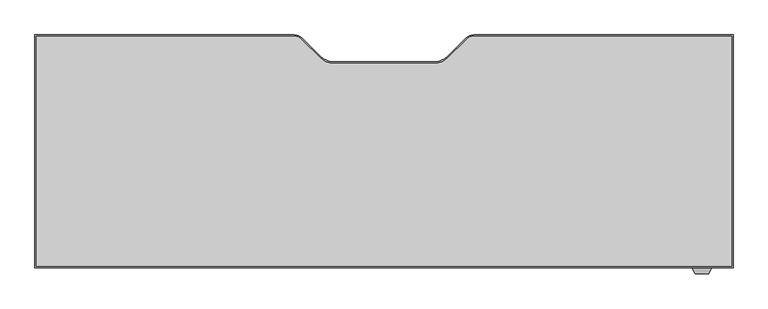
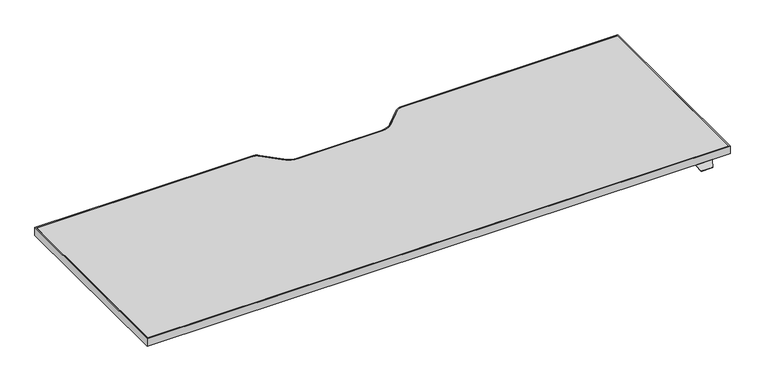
"""IFC4 building model written with IfcOpenShell, lengths in millimetres: furniture geometry, Steelcase Turnstone - Bivi - Height Adjustable Desk - T Base : 24D x 72W."""

import ifcopenshell
import ifcopenshell.guid

model = None  # the IFC model being written
_history = None  # IfcOwnerHistory: only IFC2X3 demands one
_inside = {}  # id of a spatial element -> (the spatial element, [elements in it])
_under = {}  # id of a project, library or spatial element -> (it, [spatial elements below it])
_declared = {}  # id of a project -> (the project, [libraries it declares])
_typed = {}  # id of a type object -> (the type object, [elements of that type])
_made_of = {}  # id of a material, layer set ... -> (it, [elements and type objects made of it])


def new_model(schema):
    """Start an empty IFC model of exactly this schema.

    Asked for "IFC4X3", IfcOpenShell would pick the latest addendum, in which some entities
    have other attributes; the version numbers below select the first issue.
    IFC2X3 requires an IfcOwnerHistory on every rooted entity: one is made here for all.
    """
    global model, _history
    if schema == "IFC4X3":
        model = ifcopenshell.file(schema_version=(4, 3, 0, 0))
    else:
        model = ifcopenshell.file(schema=schema)
    _inside.clear()
    _under.clear()
    _declared.clear()
    _typed.clear()
    _made_of.clear()
    _history = None
    if model.schema == "IFC2X3":
        org = make("IfcOrganization", Name="unknown")
        user = make(
            "IfcPersonAndOrganization",
            ThePerson=make("IfcPerson", FamilyName="unknown"),
            TheOrganization=org,
        )
        app = make(
            "IfcApplication",
            ApplicationDeveloper=org,
            Version="unknown",
            ApplicationFullName="unknown",
            ApplicationIdentifier="unknown",
        )
        _history = make(
            "IfcOwnerHistory",
            OwningUser=user,
            OwningApplication=app,
            ChangeAction="ADDED",
            CreationDate=0,
        )
    return model


def make(cls, **values):
    """One entity of the class cls with the attributes given. An attribute that is None is left unset."""
    return model.create_entity(
        cls, **{name: value for name, value in values.items() if value is not None}
    )


def rooted(cls, **values):
    """An entity with a GlobalId (a new one), such as an element, a storey or a relation."""
    return make(cls, GlobalId=ifcopenshell.guid.new(), OwnerHistory=_history, **values)


def si_unit(unit_type, name, prefix=None):
    """IfcSIUnit, for example si_unit("LENGTHUNIT", "METRE", prefix="MILLI")."""
    return make("IfcSIUnit", UnitType=unit_type, Prefix=prefix, Name=name)


def assignment(units):
    """IfcUnitAssignment: the units of a project."""
    return None if units is None else make("IfcUnitAssignment", Units=units)


def point(xyz):
    """IfcCartesianPoint."""
    return None if xyz is None else make("IfcCartesianPoint", Coordinates=xyz)


def direction(xyz):
    """IfcDirection."""
    return None if xyz is None else make("IfcDirection", DirectionRatios=xyz)


def frame(location, z_axis=None, x_axis=None):
    """IfcAxis2Placement3D, a coordinate frame: its origin and axes. An axis left out is left unset."""
    return make(
        "IfcAxis2Placement3D",
        Location=point(location),
        Axis=direction(z_axis),
        RefDirection=direction(x_axis),
    )


def frame_2d(location, x_axis=None):
    """IfcAxis2Placement2D, a coordinate frame in the plane: its origin and x axis."""
    return make(
        "IfcAxis2Placement2D", Location=point(location), RefDirection=direction(x_axis)
    )


def origin():
    """The frame at (0, 0, 0) with its axes left unset."""
    return frame((0.0, 0.0, 0.0))


def place(relative_to, where):
    """IfcLocalPlacement: puts the frame where relative to a parent placement (None: the world)."""
    return make(
        "IfcLocalPlacement", PlacementRelTo=relative_to, RelativePlacement=where
    )


def context(
    kind, dimensions, precision=None, world=None, true_north=None, identifier=None
):
    """IfcGeometricRepresentationContext, for example the 3D "Model" context."""
    return make(
        "IfcGeometricRepresentationContext",
        ContextIdentifier=identifier,
        ContextType=kind,
        CoordinateSpaceDimension=dimensions,
        Precision=precision,
        WorldCoordinateSystem=world,
        TrueNorth=true_north,
    )


def project(units=None, contexts=None):
    """IfcProject with its units and contexts."""
    return rooted(
        "IfcProject",
        Name="project",
        RepresentationContexts=contexts,
        UnitsInContext=assignment(units),
    )


def spatial(cls, under=None, at=None, **own):
    """A site, building, storey or space (cls), placed at a placement, below another one or the project."""
    s = rooted(cls, ObjectPlacement=at, **own)
    if under is not None:
        _under.setdefault(under.id(), (under, []))[1].append(s)
    return s


def polyline(points):
    """IfcPolyline through the points."""
    return make("IfcPolyline", Points=[point(p) for p in points])


def circle_curve(where, radius):
    """IfcCircle in the frame where."""
    return make("IfcCircle", Position=where, Radius=radius)


def trimmed(basis, trim1, trim2, sense, master):
    """IfcTrimmedCurve: the piece of a basis curve between two trims."""
    return make(
        "IfcTrimmedCurve",
        BasisCurve=basis,
        Trim1=trim1,
        Trim2=trim2,
        SenseAgreement=sense,
        MasterRepresentation=master,
    )


def segment(curve, same_sense, transition):
    """IfcCompositeCurveSegment."""
    return make(
        "IfcCompositeCurveSegment",
        Transition=transition,
        SameSense=same_sense,
        ParentCurve=curve,
    )


def composite_curve(segments, self_intersect=None):
    """IfcCompositeCurve: segments joined end to end."""
    return make("IfcCompositeCurve", Segments=segments, SelfIntersect=self_intersect)


def outline(outer, holes=None, kind="AREA"):
    """IfcArbitraryClosedProfileDef: a profile drawn as a closed curve; with holes, ...WithVoids."""
    if holes is None:
        return make("IfcArbitraryClosedProfileDef", ProfileType=kind, OuterCurve=outer)
    return make(
        "IfcArbitraryProfileDefWithVoids",
        ProfileType=kind,
        OuterCurve=outer,
        InnerCurves=holes,
    )


def extrude(swept, where, along, depth):
    """IfcExtrudedAreaSolid: the profile swept, set in the frame where, extruded along a direction by depth."""
    return make(
        "IfcExtrudedAreaSolid",
        SweptArea=swept,
        Position=where,
        ExtrudedDirection=direction(along),
        Depth=depth,
    )


def faces_of(points, faces, orient=None, outer=None):
    """IfcFace entities. A face is a list of loops; a loop is a list of indices into points, from 0.

    orient and outer hold one flag for each loop. By default every Orientation is true, the
    first loop of a face is its IfcFaceOuterBound and the others are IfcFaceBound.
    """
    made = []
    for i, loops in enumerate(faces):
        bounds = []
        for j, loop in enumerate(loops):
            is_outer = j == 0 if outer is None else outer[i][j]
            bounds.append(
                make(
                    "IfcFaceOuterBound" if is_outer else "IfcFaceBound",
                    Bound=make("IfcPolyLoop", Polygon=[points[k] for k in loop]),
                    Orientation=True if orient is None else orient[i][j],
                )
            )
        made.append(make("IfcFace", Bounds=bounds))
    return made


def faceted_brep(points, faces, orient=None, outer=None, voids=None):
    """IfcFacetedBrep: a solid bounded by flat faces; with voids (closed shells), ...WithVoids."""
    shared = [point(p) for p in points]
    hull = make("IfcClosedShell", CfsFaces=faces_of(shared, faces, orient, outer))
    if voids is None:
        return make("IfcFacetedBrep", Outer=hull)
    return make(
        "IfcFacetedBrepWithVoids",
        Outer=hull,
        Voids=[
            make(cls, CfsFaces=faces_of(shared, fs, o, b)) for cls, fs, o, b in voids
        ],
    )


def shape(context_of_items, identifier, shape_type, items):
    """IfcShapeRepresentation: the items that make up one representation, for example the "Body"."""
    return make(
        "IfcShapeRepresentation",
        ContextOfItems=context_of_items,
        RepresentationIdentifier=identifier,
        RepresentationType=shape_type,
        Items=items,
    )


def source(mapping_origin, context_of_items, identifier, shape_type, items):
    """IfcRepresentationMap: a shape defined once, which mapped items show again and again."""
    return make(
        "IfcRepresentationMap",
        MappingOrigin=mapping_origin,
        MappedRepresentation=shape(context_of_items, identifier, shape_type, items),
    )


def transform(
    local_origin,
    x_axis=None,
    y_axis=None,
    z_axis=None,
    scale=None,
    scale2=None,
    scale3=None,
    uniform=True,
):
    """IfcCartesianTransformationOperator3D, or its non-uniform kind. x_axis, y_axis, z_axis: its Axis1, 2, 3."""
    if uniform:
        return make(
            "IfcCartesianTransformationOperator3D",
            Axis1=direction(x_axis),
            Axis2=direction(y_axis),
            LocalOrigin=point(local_origin),
            Scale=scale,
            Axis3=direction(z_axis),
        )
    return make(
        "IfcCartesianTransformationOperator3DnonUniform",
        Axis1=direction(x_axis),
        Axis2=direction(y_axis),
        LocalOrigin=point(local_origin),
        Scale=scale,
        Axis3=direction(z_axis),
        Scale2=scale2,
        Scale3=scale3,
    )


def mapped(mapping_source, mapping_target):
    """IfcMappedItem: shows the shape of a source again, moved by a transform."""
    return make(
        "IfcMappedItem", MappingSource=mapping_source, MappingTarget=mapping_target
    )


def made_of(thing, what):
    """Note that an element or type object is made of a material, layer set ...; save() writes the relation."""
    if what is not None:
        _made_of.setdefault(what.id(), (what, []))[1].append(thing)
    return thing


def element(
    cls,
    number,
    at=None,
    inside=None,
    cuts=None,
    type_object=None,
    material=None,
    context=None,
    identifier="Body",
    shape_type=None,
    held_by="IfcProductDefinitionShape",
    body=None,
    shapes=None,
    **own,
):
    """One element of the class cls, such as IfcWall. Its Tag is "e" and its number.

    at: its placement. inside: the storey or other place that contains it. cuts: it is an
    opening in that element (IfcRelVoidsElement). A single representation is given by context,
    identifier, shape_type and body (its items); several are given by shapes. held_by: the class
    of the entity that holds the representations. save() writes the other relations.
    """
    e = rooted(cls, Tag="e%d" % number, ObjectPlacement=at, **own)
    if body is not None:
        shapes = [shape(context, identifier, shape_type, body)]
    if shapes is not None:
        e.Representation = make(held_by, Representations=shapes)
    if inside is not None:
        _inside.setdefault(inside.id(), (inside, []))[1].append(e)
    if cuts is not None:
        rooted(
            "IfcRelVoidsElement", RelatingBuildingElement=cuts, RelatedOpeningElement=e
        )
    if type_object is not None:
        _typed.setdefault(type_object.id(), (type_object, []))[1].append(e)
    return made_of(e, material)


def aggregate(whole, parts):
    """IfcRelAggregates: a whole, such as a stair, and the parts it consists of."""
    return rooted("IfcRelAggregates", RelatingObject=whole, RelatedObjects=parts)


def save(model, path):
    """Write the relations noted so far, then the file.

    IfcRelAggregates (storeys below a building ...), IfcRelContainedInSpatialStructure (elements
    in a storey), IfcRelDefinesByType, IfcRelAssociatesMaterial and IfcRelDeclares: one each for
    every whole, place, type object, material and project.
    """
    for whole, parts in _under.values():
        aggregate(whole, parts)
    for where, things in _inside.values():
        rooted(
            "IfcRelContainedInSpatialStructure",
            RelatedElements=things,
            RelatingStructure=where,
        )
    for kind, things in _typed.values():
        rooted("IfcRelDefinesByType", RelatedObjects=things, RelatingType=kind)
    for what, things in _made_of.values():
        rooted("IfcRelAssociatesMaterial", RelatedObjects=things, RelatingMaterial=what)
    for by, libraries in _declared.values():
        rooted("IfcRelDeclares", RelatingContext=by, RelatedDefinitions=libraries)
    model.write(path)


def furniture_7cf34d26(model_context):
    return source(origin(), model_context, "Body", "SolidModel", [
        faceted_brep([(468.4177913, -402.3301693, 760.9984131), (468.4177913, -399.8074599, 760.9984131), (468.4177913, -399.8074599, 762.4), (468.4177913, -402.3490853, 762.4), (468.4177913, -403.6594921, 761.3004382), (468.4177913, -403.6594921, 759.8829789), (418.8448135, -402.3490853, 762.4), (418.8448135, -399.8074599, 762.4), (418.8448135, -399.8074599, 760.9984131), (418.8448135, -402.3301693, 760.9984131), (418.8448135, -403.6594921, 759.8829789), (418.8448135, -403.6594921, 761.3004382), (461.4358363, -418.6323429, 748.7367246), (425.8267685, -418.6323429, 748.7367246), (425.4673686, -417.8616074, 747.9659891), (461.7952362, -417.8616074, 747.9659891)], [[[0, 1, 2, 3, 4, 5]], [[6, 7, 8, 9, 10, 11]], [[12, 13, 14, 15]], [[9, 0, 5, 15, 14, 10]], [[1, 0, 9, 8]], [[2, 1, 8, 7]], [[3, 2, 7, 6]], [[3, 6, 11, 13, 12, 4]], [[5, 4, 12, 15]], [[11, 10, 14, 13]]]),
        extrude(outline(composite_curve([segment(polyline([(-1303.6285908, 207.2509147), (-623.9070191, 207.2509147)]), True, "CONTINUOUS"), segment(trimmed(circle_curve(frame_2d((-623.9070191, 178.5489147)), 28.702), [point((-623.9070191, 207.2509147))], [point((-603.6116402, 198.8442935))], False, "CARTESIAN"), True, "CONTINUOUS"), segment(polyline([(-603.6116402, 198.8442935), (-556.0972358, 151.3298891)]), True, "CONTINUOUS"), segment(trimmed(circle_curve(frame_2d((-520.1762113, 187.2509136)), 50.8), [point((-556.0972358, 151.3298891))], [point((-520.1762113, 136.4509136))], True, "CARTESIAN"), True, "CONTINUOUS"), segment(polyline([(-520.1762113, 136.4509136), (-258.2809703, 136.4509136)]), True, "CONTINUOUS"), segment(trimmed(circle_curve(frame_2d((-258.2809703, 187.2509136)), 50.8), [point((-258.2809703, 136.4509136))], [point((-222.3599458, 151.3298891))], True, "CARTESIAN"), True, "CONTINUOUS"), segment(polyline([(-222.3599458, 151.3298891), (-174.8455414, 198.8442935)]), True, "CONTINUOUS"), segment(trimmed(circle_curve(frame_2d((-154.5501625, 178.5489147)), 28.702), [point((-174.8455414, 198.8442935))], [point((-154.5501625, 207.2509147))], False, "CARTESIAN"), True, "CONTINUOUS"), segment(polyline([(-154.5501625, 207.2509147), (525.1714092, 207.2509147), (525.1714092, -402.3490853), (-1303.6285908, -402.3490853), (-1303.6285908, 207.2509147)]), True, "CONTINUOUS")], self_intersect=False), holes=[composite_curve([segment(polyline([(-1300.2487543, 203.9489147), (-1300.2487543, -399.0470853), (521.8694092, -399.0470853), (521.8694092, 203.9489147), (-154.5501625, 203.9489147)]), True, "CONTINUOUS"), segment(trimmed(circle_curve(frame_2d((-154.5501625, 178.5489147)), 25.4), [point((-154.5501625, 203.9489147))], [point((-172.5106748, 196.5094269))], True, "CARTESIAN"), True, "CONTINUOUS"), segment(polyline([(-172.5106748, 196.5094269), (-220.527602, 148.4924998)]), True, "CONTINUOUS"), segment(trimmed(circle_curve(frame_2d((-256.4486265, 184.4135242)), 50.8), [point((-220.527602, 148.4924998))], [point((-256.4486265, 133.6135242))], False, "CARTESIAN"), True, "CONTINUOUS"), segment(polyline([(-256.4486265, 133.6135242), (-389.2285908, 133.6135242), (-522.0085552, 133.6135242)]), True, "CONTINUOUS"), segment(trimmed(circle_curve(frame_2d((-522.0085552, 184.4135242)), 50.8), [point((-522.0085552, 133.6135242))], [point((-557.9295796, 148.4924998))], False, "CARTESIAN"), True, "CONTINUOUS"), segment(polyline([(-557.9295796, 148.4924998), (-605.9465068, 196.5094269)]), True, "CONTINUOUS"), segment(trimmed(circle_curve(frame_2d((-623.9070191, 178.5489147)), 25.4), [point((-605.9465068, 196.5094269))], [point((-623.9070191, 203.9489147))], True, "CARTESIAN"), True, "CONTINUOUS"), segment(polyline([(-623.9070191, 203.9489147), (-1300.2487543, 203.9489147)]), True, "CONTINUOUS")], self_intersect=False)]), frame((0.0, 0.0, 762.4), z_axis=(0.0, 0.0, 1.0), x_axis=(1.0, 0.0, 0.0)), (0.0, 0.0, 1.0), 25.0),
        extrude(outline(composite_curve([segment(polyline([(-1300.2487543, 203.9489147), (-623.9070191, 203.9489147)]), True, "CONTINUOUS"), segment(trimmed(circle_curve(frame_2d((-623.9070191, 178.5489147)), 25.4), [point((-623.9070191, 203.9489147))], [point((-605.9465068, 196.5094269))], False, "CARTESIAN"), True, "CONTINUOUS"), segment(polyline([(-605.9465068, 196.5094269), (-557.9295796, 148.4924998)]), True, "CONTINUOUS"), segment(trimmed(circle_curve(frame_2d((-522.0085552, 184.4135242)), 50.8), [point((-557.9295796, 148.4924998))], [point((-522.0085552, 133.6135242))], True, "CARTESIAN"), True, "CONTINUOUS"), segment(polyline([(-522.0085552, 133.6135242), (-389.2285908, 133.6135242), (-256.4486265, 133.6135242)]), True, "CONTINUOUS"), segment(trimmed(circle_curve(frame_2d((-256.4486265, 184.4135242)), 50.8), [point((-256.4486265, 133.6135242))], [point((-220.527602, 148.4924998))], True, "CARTESIAN"), True, "CONTINUOUS"), segment(polyline([(-220.527602, 148.4924998), (-172.5106748, 196.5094269)]), True, "CONTINUOUS"), segment(trimmed(circle_curve(frame_2d((-154.5501625, 178.5489147)), 25.4), [point((-172.5106748, 196.5094269))], [point((-154.5501625, 203.9489147))], False, "CARTESIAN"), True, "CONTINUOUS"), segment(polyline([(-154.5501625, 203.9489147), (521.8694092, 203.9489147), (521.8694092, -399.0470853), (-1300.2487543, -399.0470853), (-1300.2487543, 203.9489147)]), True, "CONTINUOUS")], self_intersect=False)), frame((0.0, 0.0, 762.4), z_axis=(0.0, 0.0, 1.0), x_axis=(1.0, 0.0, 0.0)), (0.0, 0.0, 1.0), 25.0),
    ])


if __name__ == "__main__":
    model = new_model("IFC4")
    model_context = context("Model", 3, world=origin())
    ifc_project = project(units=[si_unit("LENGTHUNIT", "METRE", prefix="MILLI")], contexts=[model_context])
    site = spatial("IfcSite", under=ifc_project)
    building = spatial("IfcBuilding", under=site)
    placement = place(None, origin())
    furniture_shape = furniture_7cf34d26(model_context)
    element("IfcFurniture", 1, ObjectType="Steelcase Turnstone - Bivi - Height Adjustable Desk - T Base : 24D x 72W", at=placement, inside=building, context=model_context, shape_type="MappedRepresentation", body=[
        mapped(furniture_shape, transform((0.0, 0.0, 0.0), x_axis=(1.0, 0.0, 0.0), y_axis=(0.0, 1.0, 0.0), z_axis=(0.0, 0.0, 1.0))),
    ])
    save(model, "model.ifc")
